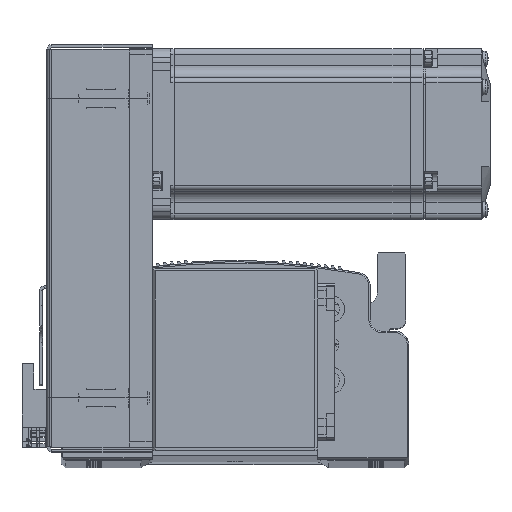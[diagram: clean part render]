
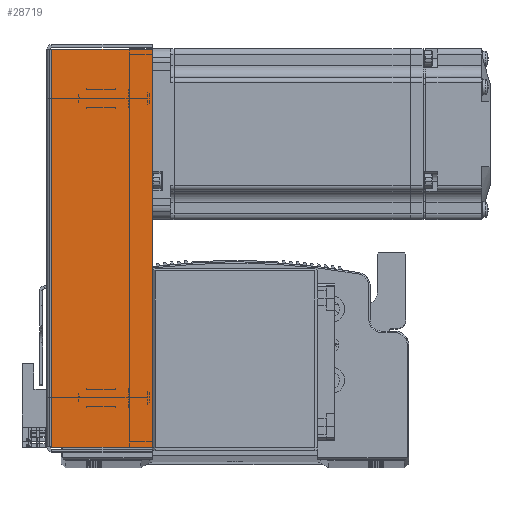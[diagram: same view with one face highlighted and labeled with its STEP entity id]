
A CAD part, top view. The second image highlights one B-rep face of the part: STEP entity #28719.
In plain terms, the highlighted planar face has unit normal (0, 0, 1) as drawn and (0, 0, -1) by its records, which use the part's own axes.
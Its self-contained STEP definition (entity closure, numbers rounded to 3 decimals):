
#3814 = CARTESIAN_POINT ( 'NONE',  ( 0., 0., -33.5 ) ) ;
#3826 = PLANE ( 'NONE',  #51527 ) ;
#3847 = DIRECTION ( 'NONE',  ( 0., 0., 1. ) ) ;
#3849 = DIRECTION ( 'NONE',  ( 0., -1., 0. ) ) ;
#9898 = EDGE_CURVE ( 'NONE', #71627, #44697, #45166, .T. ) ;
#9916 = EDGE_CURVE ( 'NONE', #44695, #71639, #45145, .T. ) ;
#9917 = EDGE_CURVE ( 'NONE', #44697, #71639, #45175, .T. ) ;
#9939 = EDGE_CURVE ( 'NONE', #71627, #44695, #45176, .T. ) ;
#21938 = CARTESIAN_POINT ( 'NONE',  ( 69.793, 0.737, -33.5 ) ) ;
#21946 = CARTESIAN_POINT ( 'NONE',  ( -69.793, 36., -33.5 ) ) ;
#22479 = CARTESIAN_POINT ( 'NONE',  ( 69.793, 36., -33.5 ) ) ;
#22480 = CARTESIAN_POINT ( 'NONE',  ( -69.793, 0.737, -33.5 ) ) ;
#28027 = FACE_OUTER_BOUND ( 'NONE', #75468, .T. ) ;
#28719 = ADVANCED_FACE ( 'NONE', ( #28027 ), #3826, .F. ) ;
#44695 = VERTEX_POINT ( 'NONE', #21938 ) ;
#44697 = VERTEX_POINT ( 'NONE', #21946 ) ;
#45135 = VECTOR ( 'NONE', #84891, 1000. ) ;
#45139 = VECTOR ( 'NONE', #84955, 1000. ) ;
#45145 = LINE ( 'NONE', #84875, #45139 ) ;
#45151 = VECTOR ( 'NONE', #85008, 1000. ) ;
#45160 = VECTOR ( 'NONE', #84864, 1000. ) ;
#45166 = LINE ( 'NONE', #84916, #45135 ) ;
#45175 = LINE ( 'NONE', #84909, #45160 ) ;
#45176 = LINE ( 'NONE', #85101, #45151 ) ;
#51527 = AXIS2_PLACEMENT_3D ( 'NONE', #3814, #3847, #3849 ) ;
#71627 = VERTEX_POINT ( 'NONE', #22480 ) ;
#71639 = VERTEX_POINT ( 'NONE', #22479 ) ;
#75468 = EDGE_LOOP ( 'NONE', ( #82527, #82645, #82525, #82509 ) ) ;
#82509 = ORIENTED_EDGE ( 'NONE', *, *, #9916, .F. ) ;
#82525 = ORIENTED_EDGE ( 'NONE', *, *, #9917, .T. ) ;
#82527 = ORIENTED_EDGE ( 'NONE', *, *, #9939, .F. ) ;
#82645 = ORIENTED_EDGE ( 'NONE', *, *, #9898, .T. ) ;
#84864 = DIRECTION ( 'NONE',  ( 1., 0., 0. ) ) ;
#84875 = CARTESIAN_POINT ( 'NONE',  ( 69.793, 0., -33.5 ) ) ;
#84891 = DIRECTION ( 'NONE',  ( 0., 1., 0. ) ) ;
#84909 = CARTESIAN_POINT ( 'NONE',  ( 0., 36., -33.5 ) ) ;
#84916 = CARTESIAN_POINT ( 'NONE',  ( -69.793, 0., -33.5 ) ) ;
#84955 = DIRECTION ( 'NONE',  ( 0., 1., 0. ) ) ;
#85008 = DIRECTION ( 'NONE',  ( 1., 0., 0. ) ) ;
#85101 = CARTESIAN_POINT ( 'NONE',  ( 71.5, 0.737, -33.5 ) ) ;
